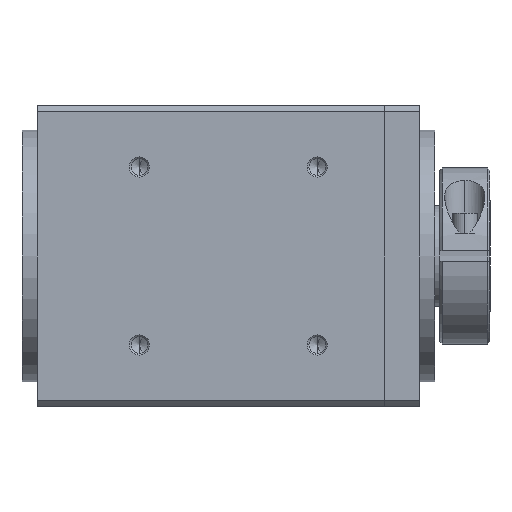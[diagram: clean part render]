
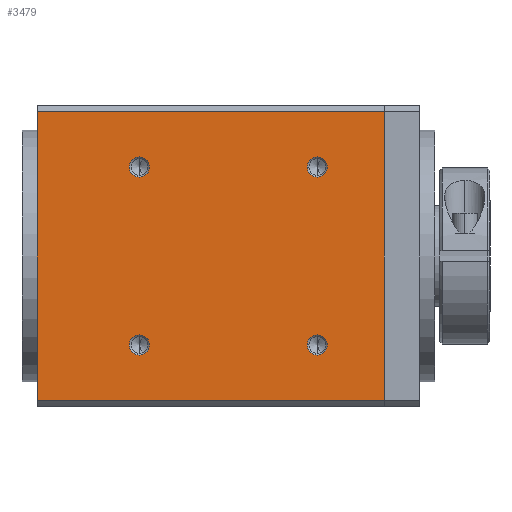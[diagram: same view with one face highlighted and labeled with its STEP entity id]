
A CAD part, left-side view. The second image highlights one B-rep face of the part: STEP entity #3479.
In plain terms, the highlighted planar face has unit normal (-1, 0, 0).
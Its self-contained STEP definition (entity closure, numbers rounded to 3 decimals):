
#498 = AXIS2_PLACEMENT_3D ( 'NONE', #5414, #5415, #5416 ) ;
#649 = VERTEX_POINT ( 'NONE', #4927 ) ;
#650 = VERTEX_POINT ( 'NONE', #4928 ) ;
#651 = VERTEX_POINT ( 'NONE', #4929 ) ;
#652 = VERTEX_POINT ( 'NONE', #4930 ) ;
#908 = FACE_BOUND ( 'NONE', #3807, .T. ) ;
#909 = FACE_BOUND ( 'NONE', #3808, .T. ) ;
#910 = FACE_BOUND ( 'NONE', #3809, .T. ) ;
#911 = FACE_BOUND ( 'NONE', #3810, .T. ) ;
#912 = FACE_OUTER_BOUND ( 'NONE', #3811, .T. ) ;
#1143 = ORIENTED_EDGE ( 'NONE', *, *, #4745, .T. ) ;
#1144 = ORIENTED_EDGE ( 'NONE', *, *, #5716, .F. ) ;
#1145 = ORIENTED_EDGE ( 'NONE', *, *, #5715, .T. ) ;
#1146 = ORIENTED_EDGE ( 'NONE', *, *, #5709, .T. ) ;
#1147 = ORIENTED_EDGE ( 'NONE', *, *, #4855, .F. ) ;
#1148 = ORIENTED_EDGE ( 'NONE', *, *, #5714, .F. ) ;
#1149 = ORIENTED_EDGE ( 'NONE', *, *, #1938, .F. ) ;
#1150 = ORIENTED_EDGE ( 'NONE', *, *, #5713, .F. ) ;
#1151 = ORIENTED_EDGE ( 'NONE', *, *, #1929, .F. ) ;
#1152 = ORIENTED_EDGE ( 'NONE', *, *, #5712, .F. ) ;
#1153 = ORIENTED_EDGE ( 'NONE', *, *, #1920, .F. ) ;
#1154 = ORIENTED_EDGE ( 'NONE', *, *, #5711, .F. ) ;
#1433 = CARTESIAN_POINT ( 'NONE',  ( -30., -27.5, 28.675 ) ) ;
#1434 = DIRECTION ( 'NONE',  ( 0., 1., 0. ) ) ;
#1438 = CARTESIAN_POINT ( 'NONE',  ( -30., 21.178, -17.678 ) ) ;
#1439 = DIRECTION ( 'NONE',  ( -1., 0., 0. ) ) ;
#1440 = DIRECTION ( 'NONE',  ( 0., 0., 1. ) ) ;
#1441 = CARTESIAN_POINT ( 'NONE',  ( -30., 21.178, 17.678 ) ) ;
#1442 = DIRECTION ( 'NONE',  ( -1., 0., 0. ) ) ;
#1443 = DIRECTION ( 'NONE',  ( 0., 0., 1. ) ) ;
#1444 = CARTESIAN_POINT ( 'NONE',  ( -30., -14.178, 17.678 ) ) ;
#1445 = DIRECTION ( 'NONE',  ( -1., 0., 0. ) ) ;
#1446 = DIRECTION ( 'NONE',  ( 0., 0., 1. ) ) ;
#1447 = CARTESIAN_POINT ( 'NONE',  ( -30., -14.178, -17.678 ) ) ;
#1448 = DIRECTION ( 'NONE',  ( -1., 0., 0. ) ) ;
#1449 = DIRECTION ( 'NONE',  ( 0., 0., 1. ) ) ;
#1450 = CARTESIAN_POINT ( 'NONE',  ( -30., 41.5, -28.675 ) ) ;
#1451 = DIRECTION ( 'NONE',  ( 0., 0., -1. ) ) ;
#1452 = CARTESIAN_POINT ( 'NONE',  ( -30., -27.5, -28.675 ) ) ;
#1453 = DIRECTION ( 'NONE',  ( 0., 1., 0. ) ) ;
#1480 = CARTESIAN_POINT ( 'NONE',  ( -30., 21.178, -19.678 ) ) ;
#1481 = CARTESIAN_POINT ( 'NONE',  ( -30., 21.178, -15.678 ) ) ;
#1487 = CARTESIAN_POINT ( 'NONE',  ( -30., 21.178, 15.678 ) ) ;
#1488 = CARTESIAN_POINT ( 'NONE',  ( -30., 21.178, 19.678 ) ) ;
#1494 = CARTESIAN_POINT ( 'NONE',  ( -30., -14.178, 15.678 ) ) ;
#1495 = CARTESIAN_POINT ( 'NONE',  ( -30., -14.178, 19.678 ) ) ;
#1501 = CARTESIAN_POINT ( 'NONE',  ( -30., -14.178, -19.678 ) ) ;
#1502 = CARTESIAN_POINT ( 'NONE',  ( -30., -14.178, -15.678 ) ) ;
#1688 = CARTESIAN_POINT ( 'NONE',  ( -30., 21.178, -17.678 ) ) ;
#1689 = DIRECTION ( 'NONE',  ( -1., 0., 0. ) ) ;
#1690 = DIRECTION ( 'NONE',  ( 0., 0., 1. ) ) ;
#1920 = EDGE_CURVE ( 'NONE', #6315, #6316, #5101, .T. ) ;
#1929 = EDGE_CURVE ( 'NONE', #6322, #6323, #5116, .T. ) ;
#1938 = EDGE_CURVE ( 'NONE', #6329, #6330, #5131, .T. ) ;
#2766 = AXIS2_PLACEMENT_3D ( 'NONE', #1688, #1689, #1690 ) ;
#2769 = AXIS2_PLACEMENT_3D ( 'NONE', #6648, #6649, #6650 ) ;
#2772 = AXIS2_PLACEMENT_3D ( 'NONE', #6669, #6670, #6671 ) ;
#3479 = ADVANCED_FACE ( 'NONE', ( #908, #909, #910, #911, #912 ), #5413, .T. ) ;
#3706 = CARTESIAN_POINT ( 'NONE',  ( -30., -27.5, -28.675 ) ) ;
#3707 = DIRECTION ( 'NONE',  ( 0., 0., 1. ) ) ;
#3807 = EDGE_LOOP ( 'NONE', ( #1154, #1153 ) ) ;
#3808 = EDGE_LOOP ( 'NONE', ( #1152, #1151 ) ) ;
#3809 = EDGE_LOOP ( 'NONE', ( #1150, #1149 ) ) ;
#3810 = EDGE_LOOP ( 'NONE', ( #1148, #1147 ) ) ;
#3811 = EDGE_LOOP ( 'NONE', ( #1146, #1145, #1144, #1143 ) ) ;
#3954 = LINE ( 'NONE', #1433, #3956 ) ;
#3956 = VECTOR ( 'NONE', #1434, 1000. ) ;
#3958 = CIRCLE ( 'NONE', #6267, 2. ) ;
#3959 = CIRCLE ( 'NONE', #6268, 2. ) ;
#3960 = CIRCLE ( 'NONE', #6269, 2. ) ;
#3961 = LINE ( 'NONE', #1450, #3963 ) ;
#3962 = CIRCLE ( 'NONE', #6270, 2. ) ;
#3963 = VECTOR ( 'NONE', #1451, 1000. ) ;
#3964 = LINE ( 'NONE', #1452, #3965 ) ;
#3965 = VECTOR ( 'NONE', #1453, 1000. ) ;
#4745 = EDGE_CURVE ( 'NONE', #652, #650, #5619, .T. ) ;
#4855 = EDGE_CURVE ( 'NONE', #6336, #6337, #6834, .T. ) ;
#4927 = CARTESIAN_POINT ( 'NONE',  ( -30., 41.5, 28.675 ) ) ;
#4928 = CARTESIAN_POINT ( 'NONE',  ( -30., -27.5, 28.675 ) ) ;
#4929 = CARTESIAN_POINT ( 'NONE',  ( -30., 41.5, -28.675 ) ) ;
#4930 = CARTESIAN_POINT ( 'NONE',  ( -30., -27.5, -28.675 ) ) ;
#5101 = CIRCLE ( 'NONE', #2766, 2. ) ;
#5116 = CIRCLE ( 'NONE', #2769, 2. ) ;
#5131 = CIRCLE ( 'NONE', #2772, 2. ) ;
#5413 = PLANE ( 'NONE',  #498 ) ;
#5414 = CARTESIAN_POINT ( 'NONE',  ( -30., -27.5, -28.675 ) ) ;
#5415 = DIRECTION ( 'NONE',  ( -1., 0., 0. ) ) ;
#5416 = DIRECTION ( 'NONE',  ( 0., 0., 1. ) ) ;
#5619 = LINE ( 'NONE', #3706, #5621 ) ;
#5621 = VECTOR ( 'NONE', #3707, 1000. ) ;
#5709 = EDGE_CURVE ( 'NONE', #650, #649, #3954, .T. ) ;
#5711 = EDGE_CURVE ( 'NONE', #6316, #6315, #3958, .T. ) ;
#5712 = EDGE_CURVE ( 'NONE', #6323, #6322, #3959, .T. ) ;
#5713 = EDGE_CURVE ( 'NONE', #6330, #6329, #3960, .T. ) ;
#5714 = EDGE_CURVE ( 'NONE', #6337, #6336, #3962, .T. ) ;
#5715 = EDGE_CURVE ( 'NONE', #649, #651, #3961, .T. ) ;
#5716 = EDGE_CURVE ( 'NONE', #652, #651, #3964, .T. ) ;
#6158 = CARTESIAN_POINT ( 'NONE',  ( -30., -14.178, -17.678 ) ) ;
#6159 = DIRECTION ( 'NONE',  ( -1., 0., 0. ) ) ;
#6160 = DIRECTION ( 'NONE',  ( 0., 0., 1. ) ) ;
#6230 = AXIS2_PLACEMENT_3D ( 'NONE', #6158, #6159, #6160 ) ;
#6267 = AXIS2_PLACEMENT_3D ( 'NONE', #1438, #1439, #1440 ) ;
#6268 = AXIS2_PLACEMENT_3D ( 'NONE', #1441, #1442, #1443 ) ;
#6269 = AXIS2_PLACEMENT_3D ( 'NONE', #1444, #1445, #1446 ) ;
#6270 = AXIS2_PLACEMENT_3D ( 'NONE', #1447, #1448, #1449 ) ;
#6315 = VERTEX_POINT ( 'NONE', #1480 ) ;
#6316 = VERTEX_POINT ( 'NONE', #1481 ) ;
#6322 = VERTEX_POINT ( 'NONE', #1487 ) ;
#6323 = VERTEX_POINT ( 'NONE', #1488 ) ;
#6329 = VERTEX_POINT ( 'NONE', #1494 ) ;
#6330 = VERTEX_POINT ( 'NONE', #1495 ) ;
#6336 = VERTEX_POINT ( 'NONE', #1501 ) ;
#6337 = VERTEX_POINT ( 'NONE', #1502 ) ;
#6648 = CARTESIAN_POINT ( 'NONE',  ( -30., 21.178, 17.678 ) ) ;
#6649 = DIRECTION ( 'NONE',  ( -1., 0., 0. ) ) ;
#6650 = DIRECTION ( 'NONE',  ( 0., 0., 1. ) ) ;
#6669 = CARTESIAN_POINT ( 'NONE',  ( -30., -14.178, 17.678 ) ) ;
#6670 = DIRECTION ( 'NONE',  ( -1., 0., 0. ) ) ;
#6671 = DIRECTION ( 'NONE',  ( 0., 0., 1. ) ) ;
#6834 = CIRCLE ( 'NONE', #6230, 2. ) ;
